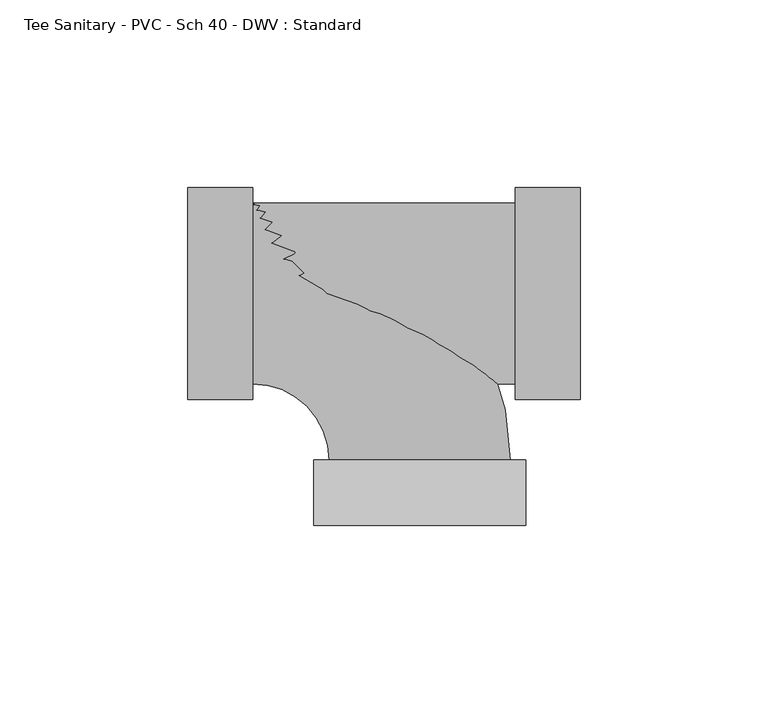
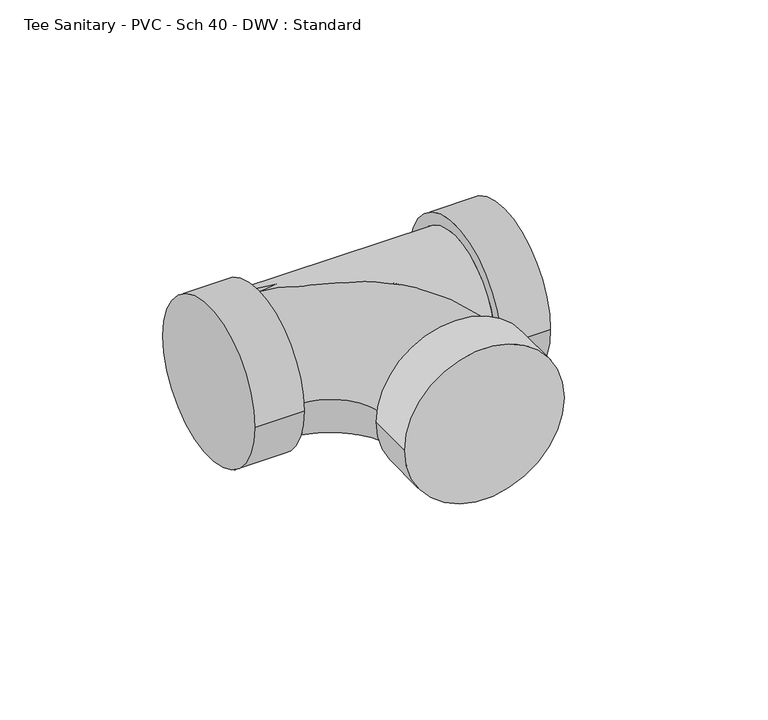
"""IFC4 building model written with IfcOpenShell, lengths in millimetres: pipe fitting geometry, Tee Sanitary - PVC - Sch 40 - DWV : Standard."""

from ifc_helpers import new_model, si_unit, point, frame, origin, place, context, project, spatial, circle_curve, ellipse_curve, trimmed, source, transform, mapped, element, save
from ifc_brep_helpers import plane_surface, cylinder_surface, revolved_surface, advanced_brep


def tee_sanitary_pvc_sch_40_dwv_standard_4981b708(model_context):
    return source(origin(), model_context, "Body", "AdvancedBrep", [
        advanced_brep(
        [(-44.45, -24.13, 0.0), (-44.45, 24.13, 0.0), (-24.13, -44.45, 0.0), (24.13, -44.45, 0.0), (28.2829, -61.8998, 0.0), (-28.2829, -61.8998, 0.0), (28.2829, -44.45, 0.0), (-28.2829, -44.45, 0.0)],
        [
            (0, 1, circle_curve(frame((-44.45, 0.0, 0.0), z_axis=(-1.0, 0.0, 0.0), x_axis=(0.0, 1.0, 0.0)), 24.13)),
            (1, 0, circle_curve(frame((-44.45, 0.0, 0.0), z_axis=(-1.0, 0.0, 0.0), x_axis=(0.0, 1.0, 0.0)), 24.13)),
            (0, 2, circle_curve(frame((-44.45, -44.45, 0.0), z_axis=(0.0, 0.0, -1.0), x_axis=(0.0, 1.0, 0.0)), 20.32)),
            (2, 3, circle_curve(frame((0.0, -44.45, 0.0), z_axis=(-1.4531766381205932e-12, 1.0, 0.0), x_axis=(1.0, 1.4531766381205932e-12, 0.0)), 24.13)),
            (3, 1, circle_curve(frame((-44.45, -44.45, 0.0), z_axis=(0.0, 0.0, 1.0), x_axis=(0.0, 1.0, 0.0)), 68.58)),
            (3, 2, circle_curve(frame((0.0, -44.45, 0.0), z_axis=(0.0, 1.0, 0.0), x_axis=(1.0, 0.0, 0.0)), 24.13)),
            (4, 5, circle_curve(frame((0.0, -61.8998, 0.0), z_axis=(0.0, -1.0, 0.0), x_axis=(-1.0, 0.0, 0.0)), 28.2829)),
            (5, 4, circle_curve(frame((0.0, -61.8998, 0.0), z_axis=(0.0, -1.0, 0.0), x_axis=(-1.0, 0.0, 0.0)), 28.2829)),
            (6, 7, circle_curve(frame((0.0, -44.45, 0.0), z_axis=(0.0, 1.0, 0.0), x_axis=(-1.0, 0.0, 0.0)), 28.2829)),
            (7, 6, circle_curve(frame((0.0, -44.45, 0.0), z_axis=(0.0, 1.0, 0.0), x_axis=(-1.0, 0.0, 0.0)), 28.2829)),
            (4, 6),
            (7, 5),
        ],
        [
            plane_surface(frame((-44.45, 0.0, 0.0), z_axis=(-1.0, 0.0, 0.0), x_axis=(0.0, 0.0, 1.0))),
            revolved_surface(trimmed(ellipse_curve(frame((-44.45, 0.0, 0.0), z_axis=(-1.0, 0.0, 0.0), x_axis=(0.0, 1.0, 0.0)), 24.13, 24.13), [point((-44.45, -24.13, 0.0))], [point((-44.45, 24.13, 0.0))], True, "CARTESIAN"), (-44.45, -44.45, 0.0), (0.0, 0.0, -1.0)),
            revolved_surface(trimmed(ellipse_curve(frame((-44.45, 0.0, 0.0), z_axis=(-1.0, 0.0, 0.0), x_axis=(0.0, 1.0, 0.0)), 24.13, 24.13), [point((-44.45, 24.13, 0.0))], [point((-44.45, -24.13, 0.0))], True, "CARTESIAN"), (-44.45, -44.45, 0.0), (0.0, 0.0, -1.0)),
            plane_surface(frame((0.0, -61.8998, 0.0), z_axis=(0.0, -1.0, 0.0), x_axis=(0.0, 0.0, 1.0))),
            plane_surface(frame((0.0, -44.45, 0.0), z_axis=(0.0, 1.0, 0.0), x_axis=(0.0, 0.0, 1.0))),
            cylinder_surface(frame((0.0, -61.8998, 0.0), z_axis=(0.0, -1.0, 0.0), x_axis=(-1.0, 0.0, 0.0)), 28.2829),
        ],
        [
            (0, [[1, 2]]),
            (1, [[-1, 3, 4, 5]]),
            (2, [[-2, -5, 6, -3]]),
            (3, [[7, 8]]),
            (4, [[9, 10], [-4, -6]]),
            (5, [[-7, 11, -10, 12]]),
            (5, [[-8, -12, -9, -11]]),
        ],
    ),
        advanced_brep(
        [(-44.45, -24.13, 0.0), (25.4, -24.13, 0.0), (25.4, 24.13, 0.0), (-44.45, 24.13, 0.0), (25.4, -28.2829, 0.0), (25.4, 28.2829, 0.0), (42.8498, -28.2829, 0.0), (42.8498, 28.2829, 0.0), (-61.8998, -28.2829, 0.0), (-61.8998, 28.2829, 0.0), (-44.45, -28.2829, 0.0), (-44.45, 28.2829, 0.0)],
        [
            (0, 1),
            (1, 2, circle_curve(frame((25.4, 0.0, 0.0), z_axis=(-1.0, 0.0, 0.0), x_axis=(0.0, 1.0, 0.0)), 24.13)),
            (2, 3),
            (3, 0, circle_curve(frame((-44.45, 0.0, 0.0), z_axis=(1.0, 0.0, 0.0), x_axis=(0.0, 1.0, 0.0)), 24.13)),
            (0, 3, circle_curve(frame((-44.45, 0.0, 0.0), z_axis=(1.0, 0.0, 0.0), x_axis=(0.0, 1.0, 0.0)), 24.13)),
            (2, 1, circle_curve(frame((25.4, 0.0, 0.0), z_axis=(-1.0, 0.0, 0.0), x_axis=(0.0, 1.0, 0.0)), 24.13)),
            (4, 5, circle_curve(frame((25.4, 0.0, 0.0), z_axis=(-1.0, 0.0, 0.0), x_axis=(0.0, 1.0, 0.0)), 28.2829)),
            (5, 4, circle_curve(frame((25.4, 0.0, 0.0), z_axis=(-1.0, 0.0, 0.0), x_axis=(0.0, 1.0, 0.0)), 28.2829)),
            (6, 7, circle_curve(frame((42.8498, 0.0, 0.0), z_axis=(1.0, 0.0, 0.0), x_axis=(0.0, 1.0, 0.0)), 28.2829)),
            (7, 6, circle_curve(frame((42.8498, 0.0, 0.0), z_axis=(1.0, 0.0, 0.0), x_axis=(0.0, 1.0, 0.0)), 28.2829)),
            (4, 6),
            (7, 5),
            (8, 9, circle_curve(frame((-61.8998, 0.0, 0.0), z_axis=(-1.0, 0.0, 0.0), x_axis=(0.0, 1.0, 0.0)), 28.2829)),
            (9, 8, circle_curve(frame((-61.8998, 0.0, 0.0), z_axis=(-1.0, 0.0, 0.0), x_axis=(0.0, 1.0, 0.0)), 28.2829)),
            (10, 11, circle_curve(frame((-44.45, 0.0, 0.0), z_axis=(1.0, 0.0, 0.0), x_axis=(0.0, 1.0, 0.0)), 28.2829)),
            (11, 10, circle_curve(frame((-44.45, 0.0, 0.0), z_axis=(1.0, 0.0, 0.0), x_axis=(0.0, 1.0, 0.0)), 28.2829)),
            (8, 10),
            (11, 9),
        ],
        [
            cylinder_surface(frame((-44.45, 0.0, 0.0), z_axis=(-1.0, 0.0, 0.0), x_axis=(0.0, 1.0, 0.0)), 24.13),
            plane_surface(frame((25.4, 0.0, 0.0), z_axis=(-1.0, 0.0, 0.0), x_axis=(0.0, 0.0, 1.0))),
            plane_surface(frame((42.8498, 0.0, 0.0), z_axis=(1.0, 0.0, 0.0), x_axis=(0.0, 0.0, 1.0))),
            cylinder_surface(frame((25.4, 0.0, 0.0), z_axis=(-1.0, 0.0, 0.0), x_axis=(0.0, 1.0, 0.0)), 28.2829),
            plane_surface(frame((-61.8998, 0.0, 0.0), z_axis=(-1.0, 0.0, 0.0), x_axis=(0.0, 0.0, 1.0))),
            plane_surface(frame((-44.45, 0.0, 0.0), z_axis=(1.0, 0.0, 0.0), x_axis=(0.0, 0.0, 1.0))),
            cylinder_surface(frame((-61.8998, 0.0, 0.0), z_axis=(-1.0, 0.0, 0.0), x_axis=(0.0, 1.0, 0.0)), 28.2829),
        ],
        [
            (0, [[1, 2, 3, 4]]),
            (0, [[-1, 5, -3, 6]]),
            (1, [[7, 8], [-2, -6]]),
            (2, [[9, 10]]),
            (3, [[-7, 11, -10, 12]]),
            (3, [[-8, -12, -9, -11]]),
            (4, [[13, 14]]),
            (5, [[15, 16], [-4, -5]]),
            (6, [[-13, 17, -16, 18]]),
            (6, [[-14, -18, -15, -17]]),
        ],
    ),
    ])


if __name__ == "__main__":
    model = new_model("IFC4")
    model_context = context("Model", 3, world=origin())
    ifc_project = project(units=[si_unit("LENGTHUNIT", "METRE", prefix="MILLI")], contexts=[model_context])
    site = spatial("IfcSite", under=ifc_project)
    building = spatial("IfcBuilding", under=site)
    placement = place(None, origin())
    tee_sanitary_pvc_sch_40_dwv_standard_shape = tee_sanitary_pvc_sch_40_dwv_standard_4981b708(model_context)
    element("IfcPipeFitting", 1, ObjectType="Tee Sanitary - PVC - Sch 40 - DWV : Standard", at=placement, inside=building, context=model_context, shape_type="MappedRepresentation", body=[
        mapped(tee_sanitary_pvc_sch_40_dwv_standard_shape, transform((0.0, 0.0, 0.0), x_axis=(1.0, 0.0, 0.0), y_axis=(0.0, 1.0, 0.0), z_axis=(0.0, 0.0, 1.0))),
    ])
    save(model, "model.ifc")
